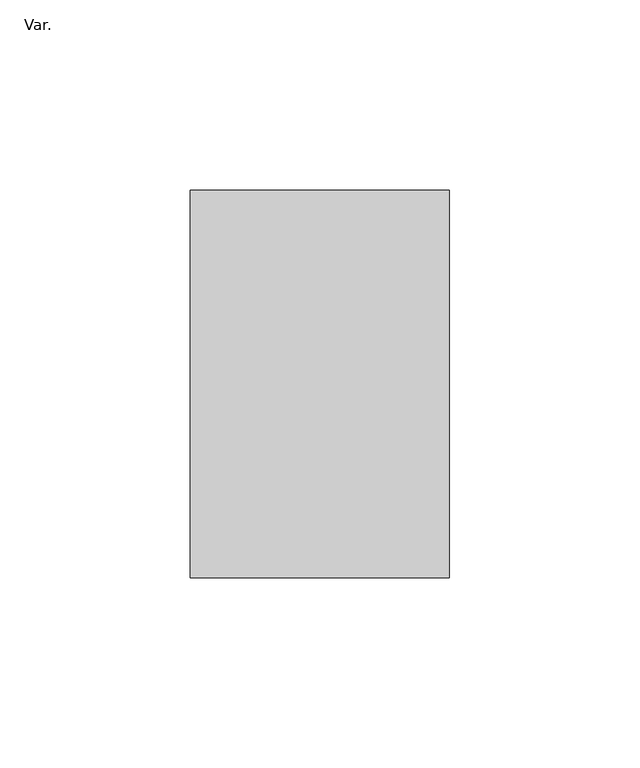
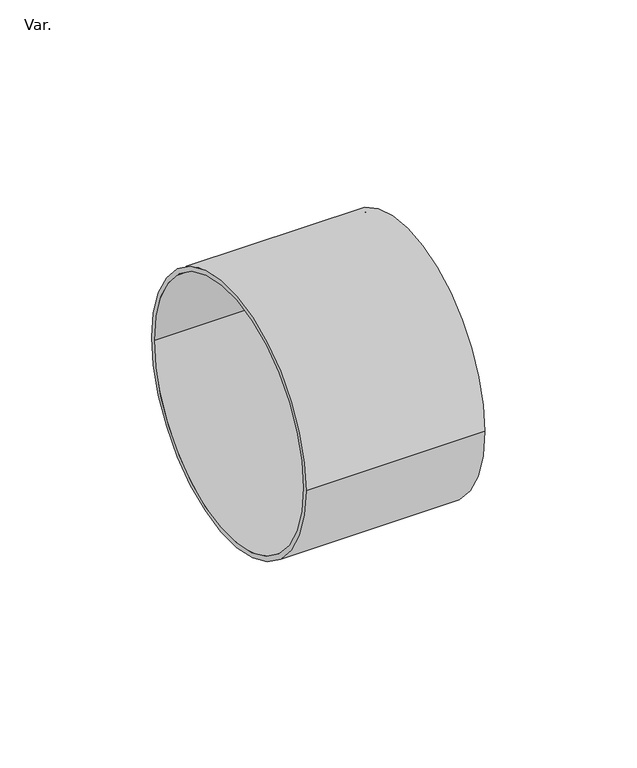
"""IFC4 building model written with IfcOpenShell, lengths in millimetres: pipe fitting geometry, AmancoWavin_ConexõesdeTubos_EsgotoZNãoUsarEsgotoCaixaSifProlongamento : Var.."""

from ifc_helpers import new_model, si_unit, point, frame, origin, origin_2d, place, context, project, spatial, circle_curve, trimmed, segment, composite_curve, outline, extrude, source, transform, mapped, element, save


def var_94de5e28(model_context):
    return source(origin(), model_context, "Body", "SweptSolid", [
        extrude(outline(composite_curve([segment(trimmed(circle_curve(origin_2d(), 50.8), [point((-50.8, 0.0))], [point((50.8, 0.0))], False, "CARTESIAN"), True, "CONTINUOUS"), segment(trimmed(circle_curve(origin_2d(), 50.8), [point((50.8, 0.0))], [point((-50.8, 0.0))], False, "CARTESIAN"), True, "CONTINUOUS")], self_intersect=False), holes=[composite_curve([segment(trimmed(circle_curve(origin_2d(), 49.0), [point((-49.0, 0.0))], [point((49.0, 0.0))], True, "CARTESIAN"), True, "CONTINUOUS"), segment(trimmed(circle_curve(origin_2d(), 49.0), [point((49.0, 0.0))], [point((-49.0, 0.0))], True, "CARTESIAN"), True, "CONTINUOUS")], self_intersect=False)]), frame((0.0, 0.0, 0.0), z_axis=(1.0, 0.0, 0.0), x_axis=(0.0, 1.0, 0.0)), (0.0, 0.0, 1.0), 68.0),
    ])


if __name__ == "__main__":
    model = new_model("IFC4")
    model_context = context("Model", 3, world=origin())
    ifc_project = project(units=[si_unit("LENGTHUNIT", "METRE", prefix="MILLI")], contexts=[model_context])
    site = spatial("IfcSite", under=ifc_project)
    building = spatial("IfcBuilding", under=site)
    placement = place(None, origin())
    var_shape = var_94de5e28(model_context)
    element("IfcPipeFitting", 1, ObjectType="AmancoWavin_ConexõesdeTubos_EsgotoZNãoUsarEsgotoCaixaSifProlongamento : Var.", at=placement, inside=building, context=model_context, shape_type="MappedRepresentation", body=[
        mapped(var_shape, transform((0.0, 0.0, 0.0), x_axis=(1.0, 0.0, 0.0), y_axis=(0.0, 1.0, 0.0), z_axis=(0.0, 0.0, 1.0))),
    ])
    save(model, "model.ifc")
